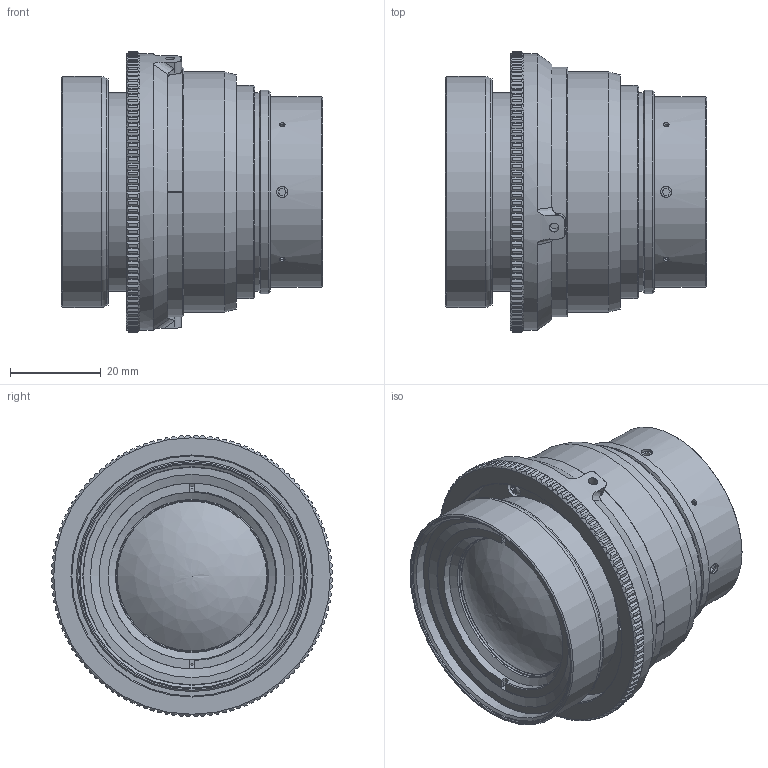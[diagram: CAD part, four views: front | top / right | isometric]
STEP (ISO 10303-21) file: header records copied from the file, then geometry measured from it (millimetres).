
FILE_DESCRIPTION(/* description */ (''),/* implementation_level */ '2;1');
FILE_NAME(/* name */ '',/* time_stamp */ '2018-08-31T12:33:34+02:00',/* author */ (''),/* organization */ (''),/* preprocessor_version */ 'ST-DEVELOPER v15',/* originating_system */ 'SIEMENS PLM Software NX 8.5',/* authorisation */ '');
FILE_SCHEMA (('AUTOMOTIVE_DESIGN { 1 0 10303 214 3 1 1 1 }'));
Length unit declared in the file: millimetre
Products named in the file (1): alex1698CAABbkpo
Bounding box: 57.6 x 61.99 x 61.99 mm (x, y, z)
Volume: 100815.5 mm3; surface area: 21736 mm2
Topology: 1 solids, 12 shells, 836 faces, 2318 edges, 1535 vertices
Faces by surface type: plane 468, cylinder 297, cone 51, torus 8, sphere 6, bspline 4, revolution 2
Full cylindrical faces by diameter (mm): 0.8 x4, 1.6 x4, 2 x6, 2.05 x2, 2.2 x6, 2.459 x4, 3.5 x6, 4 x6, 25.1 x1, 25.7 x1, 26.9 x1, 31.2 x1, 33 x1, 33.8 x1, 34.5 x1, 34.7 x1, 37 x1, 38.386 x1, 39.2 x2, 39.959 x1, 40.7 x2, 41 x1, 42 x1, 43.8 x2, 45 x1, 47 x1, 48.188 x2, 49.4 x1, 50 x1, 51 x1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
Entity records: 33793 total; most frequent: CARTESIAN_POINT 8387, ORIENTED_EDGE 4228, DIRECTION 3870, EDGE_CURVE 2114, AXIS2_PLACEMENT_3D 1522, VERTEX_POINT 1463, EDGE_LOOP 1009, ADVANCED_FACE 836
